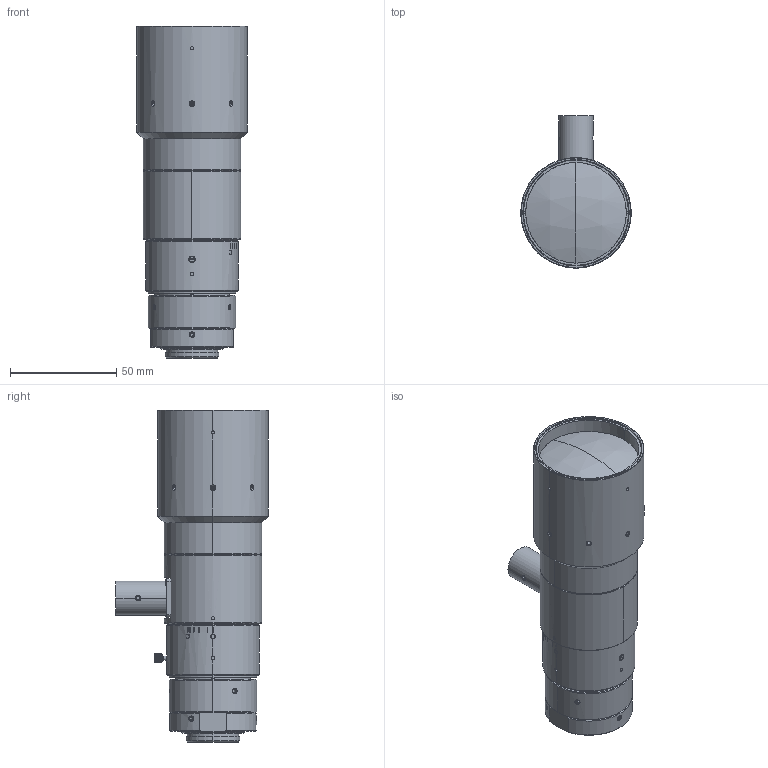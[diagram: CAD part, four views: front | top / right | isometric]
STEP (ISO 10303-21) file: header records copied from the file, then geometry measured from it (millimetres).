
FILE_DESCRIPTION (( 'STEP AP214' ), '1' );
FILE_NAME ('MML05-SR110DVI-18C.STEP', '2026-06-18T06:11:08', ( '' ), ( '' ), 'SwSTEP 2.0', 'SolidWorks 2025', '' );
FILE_SCHEMA (( 'AUTOMOTIVE_DESIGN' ));
Length unit declared in the file: millimetre
Products named in the file (1): MML05-SR110DVI-18C
Bounding box: 52 x 71.75 x 156.22 mm (x, y, z)
Volume: 241753.3 mm3; surface area: 34545.4 mm2
Topology: 1 solids, 1 shells, 853 faces, 2153 edges, 1366 vertices
Faces by surface type: cylinder 275, plane 273, cone 201, bspline 84, torus 12, sphere 8
Entity records: 35812 total; most frequent: CARTESIAN_POINT 16693, ORIENTED_EDGE 4298, DIRECTION 3467, EDGE_CURVE 2149, VERTEX_POINT 1366, AXIS2_PLACEMENT_3D 1346, EDGE_LOOP 923, FACE_OUTER_BOUND 853
